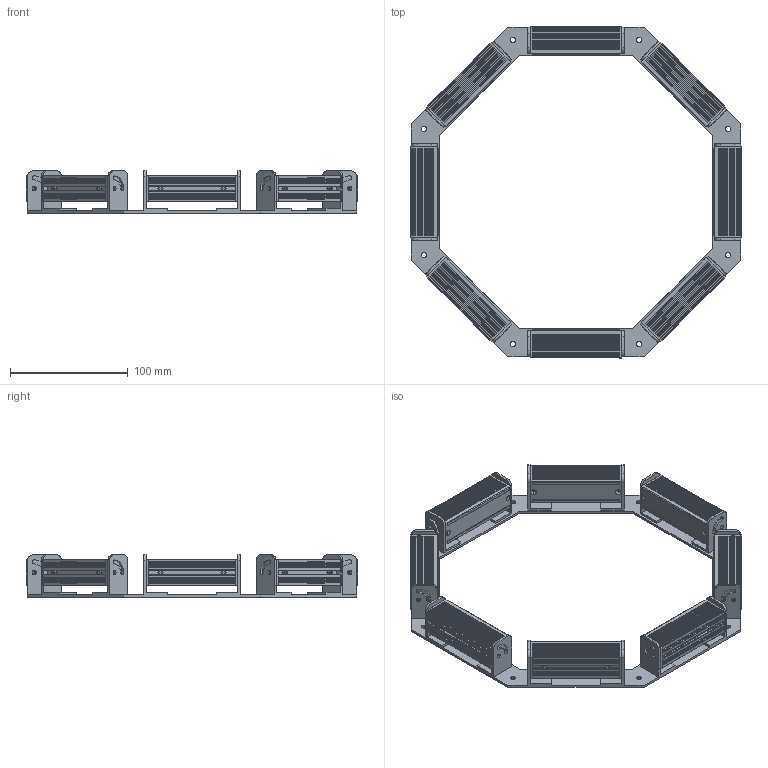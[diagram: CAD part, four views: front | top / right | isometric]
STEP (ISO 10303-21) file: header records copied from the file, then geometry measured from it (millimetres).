
FILE_DESCRIPTION((''),'2;1');
FILE_NAME('MSL-102-102_ASM','2020-03-26T',('ASUS'),(''),'PRO/ENGINEER BY PARAMETRIC TECHNOLOGY CORPORATION, 2008380','PRO/ENGINEER BY PARAMETRIC TECHNOLOGY CORPORATION, 2008380','');
FILE_SCHEMA(('CONFIG_CONTROL_DESIGN'));
Length unit declared in the file: millimetre
Products named in the file (3): PRT0002; PRT0009; MSL-102-102_ASM
Assembly tree (9 placements, depth 2):
  MSL-102-102_ASM
    PRT0002
    PRT0009  x8
Bounding box: 282.05 x 282.05 x 36 mm (x, y, z)
Volume: 362862.4 mm3; surface area: 189719.8 mm2
Topology: 9 solids, 41 shells, 2466 faces, 6624 edges, 4384 vertices
Faces by surface type: plane 1474, cylinder 832, cone 160
Entity records: 17714 total; most frequent: CARTESIAN_POINT 3237, DIRECTION 3032, ORIENTED_EDGE 2968, EDGE_CURVE 1492, AXIS2_PLACEMENT_3D 1020, VERTEX_POINT 996, VECTOR 992, LINE 992
